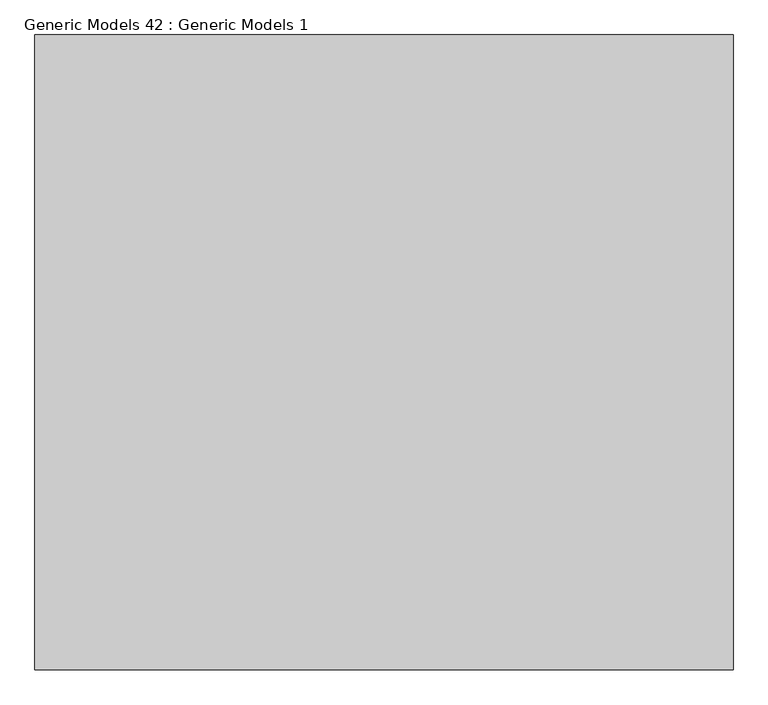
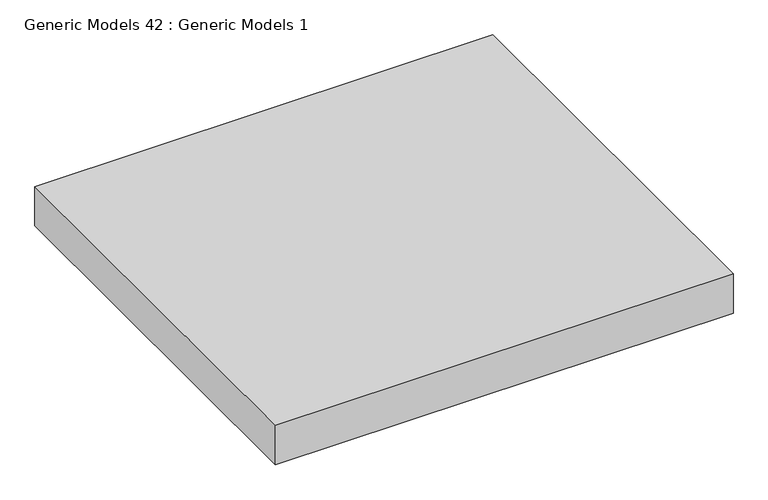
"""IFC4 building model written with IfcOpenShell, lengths in millimetres: proxy geometry, Generic Models 42 : Generic Models 1."""

from ifc_helpers import new_model, si_unit, origin, origin_with_axes, place, context, project, spatial, polyline, outline, extrude, source, transform, mapped, element, save


def generic_models_42_generic_models_1_e7106305(model_context):
    return source(origin(), model_context, "Body", "SweptSolid", [
        extrude(outline(polyline([(1895.1731655, -3424.1855869), (1895.1731655, -2424.1855869), (2995.1731655, -2424.1855869), (2995.1731655, -3424.1855869), (1895.1731655, -3424.1855869)])), origin_with_axes(), (0.0, 0.0, 1.0), 100.0),
    ])


if __name__ == "__main__":
    model = new_model("IFC4")
    model_context = context("Model", 3, world=origin())
    ifc_project = project(units=[si_unit("LENGTHUNIT", "METRE", prefix="MILLI")], contexts=[model_context])
    site = spatial("IfcSite", under=ifc_project)
    building = spatial("IfcBuilding", under=site)
    placement = place(None, origin())
    generic_models_42_generic_models_1_shape = generic_models_42_generic_models_1_e7106305(model_context)
    element("IfcBuildingElementProxy", 1, Name="Generic Models 42 : Generic Models 1", ObjectType="Generic Models 42 : Generic Models 1", at=placement, inside=building, context=model_context, shape_type="MappedRepresentation", body=[
        mapped(generic_models_42_generic_models_1_shape, transform((0.0, 0.0, 0.0), x_axis=(1.0, 0.0, 0.0), y_axis=(0.0, 1.0, 0.0), z_axis=(0.0, 0.0, 1.0))),
    ])
    save(model, "model.ifc")
